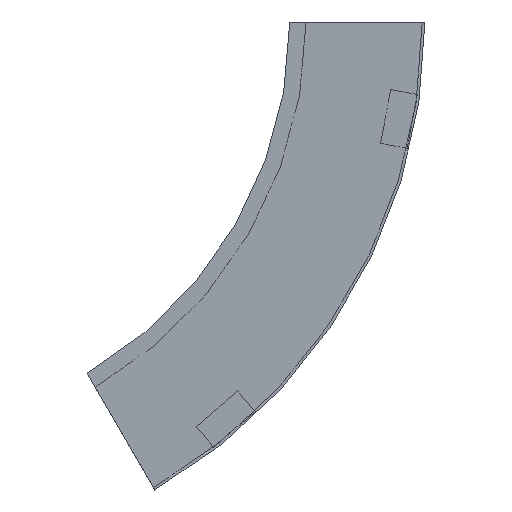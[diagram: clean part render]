
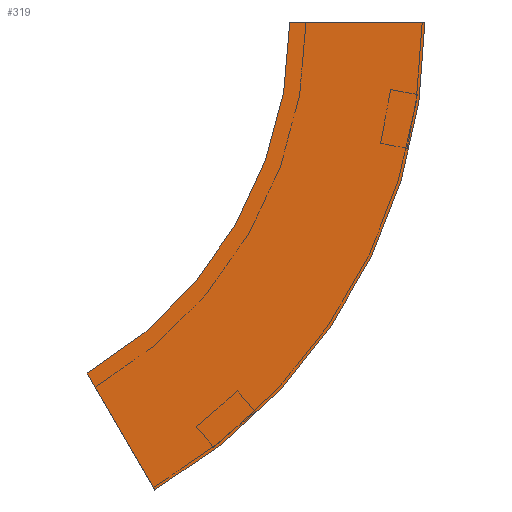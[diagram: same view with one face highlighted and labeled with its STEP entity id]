
A CAD part, left-side view. The second image highlights one B-rep face of the part: STEP entity #319.
In plain terms, the highlighted planar face has unit normal (-1, 0, 0) as drawn and (1, 0, 0) by its records, which use the part's own axes.
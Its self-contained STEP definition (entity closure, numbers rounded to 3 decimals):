
#4 = ORIENTED_EDGE ( 'NONE', *, *, #188, .T. ) ;
#13 = EDGE_LOOP ( 'NONE', ( #447, #130, #504, #4 ) ) ;
#15 = CARTESIAN_POINT ( 'NONE',  ( 0., -100., 0. ) ) ;
#34 = CARTESIAN_POINT ( 'NONE',  ( 0., -100., 0. ) ) ;
#51 = VECTOR ( 'NONE', #426, 1000. ) ;
#97 = VERTEX_POINT ( 'NONE', #189 ) ;
#101 = CARTESIAN_POINT ( 'NONE',  ( 0., 300., 0. ) ) ;
#112 = LINE ( 'NONE', #555, #51 ) ;
#130 = ORIENTED_EDGE ( 'NONE', *, *, #162, .F. ) ;
#162 = EDGE_CURVE ( 'NONE', #456, #97, #396, .T. ) ;
#188 = EDGE_CURVE ( 'NONE', #324, #482, #112, .T. ) ;
#189 = CARTESIAN_POINT ( 'NONE',  ( 0., 0., 0. ) ) ;
#195 = DIRECTION ( 'NONE',  ( -1., 0., 0. ) ) ;
#227 = CIRCLE ( 'NONE', #450, 300. ) ;
#234 = CIRCLE ( 'NONE', #356, 400. ) ;
#242 = PLANE ( 'NONE',  #491 ) ;
#247 = DIRECTION ( 'NONE',  ( 1., 0., 0. ) ) ;
#256 = EDGE_CURVE ( 'NONE', #97, #482, #227, .T. ) ;
#306 = CARTESIAN_POINT ( 'NONE',  ( 0., 150., -259.808 ) ) ;
#319 = ADVANCED_FACE ( 'NONE', ( #507 ), #242, .F. ) ;
#324 = VERTEX_POINT ( 'NONE', #457 ) ;
#330 = EDGE_CURVE ( 'NONE', #456, #324, #234, .T. ) ;
#338 = CARTESIAN_POINT ( 'NONE',  ( 0., 300., 0. ) ) ;
#355 = DIRECTION ( 'NONE',  ( 0., 1., 0. ) ) ;
#356 = AXIS2_PLACEMENT_3D ( 'NONE', #101, #422, #424 ) ;
#375 = DIRECTION ( 'NONE',  ( 0., 0., 1. ) ) ;
#388 = VECTOR ( 'NONE', #355, 1000. ) ;
#396 = LINE ( 'NONE', #570, #388 ) ;
#422 = DIRECTION ( 'NONE',  ( 1., 0., 0. ) ) ;
#424 = DIRECTION ( 'NONE',  ( 0., -1., 0. ) ) ;
#426 = DIRECTION ( 'NONE',  ( 0., 0.5, 0.866 ) ) ;
#447 = ORIENTED_EDGE ( 'NONE', *, *, #256, .F. ) ;
#450 = AXIS2_PLACEMENT_3D ( 'NONE', #338, #247, #547 ) ;
#456 = VERTEX_POINT ( 'NONE', #34 ) ;
#457 = CARTESIAN_POINT ( 'NONE',  ( 0., 100., -346.41 ) ) ;
#482 = VERTEX_POINT ( 'NONE', #306 ) ;
#491 = AXIS2_PLACEMENT_3D ( 'NONE', #15, #195, #375 ) ;
#504 = ORIENTED_EDGE ( 'NONE', *, *, #330, .T. ) ;
#507 = FACE_OUTER_BOUND ( 'NONE', #13, .T. ) ;
#547 = DIRECTION ( 'NONE',  ( 0., -1., 0. ) ) ;
#555 = CARTESIAN_POINT ( 'NONE',  ( 0., 100., -346.41 ) ) ;
#570 = CARTESIAN_POINT ( 'NONE',  ( 0., -100., 0. ) ) ;
